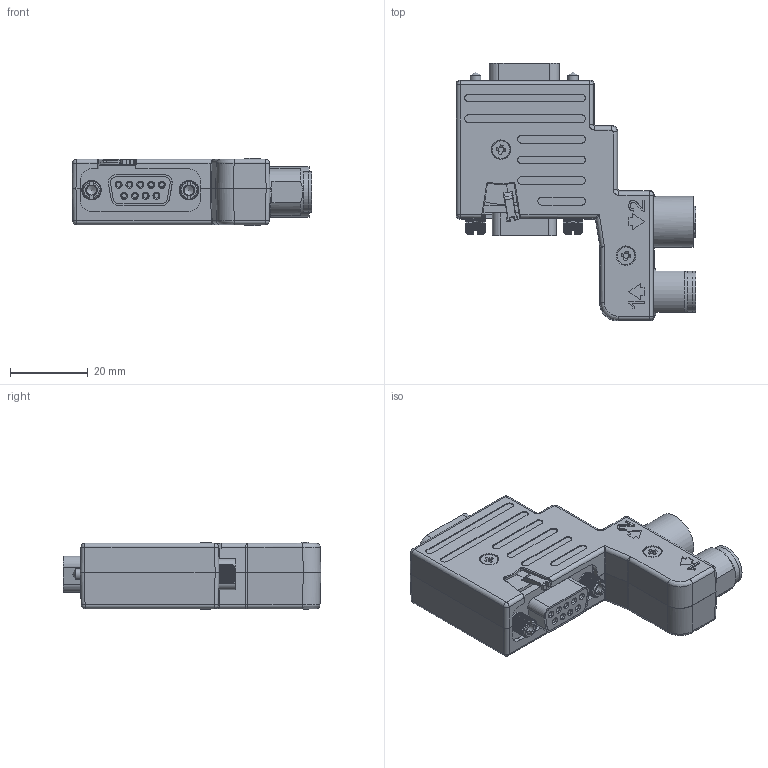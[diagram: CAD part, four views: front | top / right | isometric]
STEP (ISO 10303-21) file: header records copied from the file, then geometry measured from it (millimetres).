
FILE_DESCRIPTION(/* description */ (''),/* implementation_level */ '2;1');
FILE_NAME(/* name */ '40-1492122-000-BG_01_Kunden.stp',/* time_stamp */ '2013-12-03T09:29:43+01:00',/* author */ (''),/* organization */ (''),/* preprocessor_version */ 'ST-DEVELOPER v11',/* originating_system */ 'SIEMENS PLM Software NX 7.5',/* authorisation */ '');
FILE_SCHEMA (('AUTOMOTIVE_DESIGN { 1 0 10303 214 1 1 1 1 }'));
Products named in the file (1): Schu80C07x0z
Bounding box: 61.55 x 66.12 x 17.4 mm (x, y, z)
Volume: 30956.1 mm3; surface area: 16328.4 mm2
Topology: 1 solids, 4 shells, 2326 faces, 6423 edges, 4110 vertices
Faces by surface type: plane 1272, cylinder 586, bspline 196, cone 110, torus 67, extrusion 52, sphere 43
Full cylindrical faces by diameter (mm): 0.95 x1, 1 x9, 1.1 x5, 1.2 x9, 1.95 x5, 2.05 x1, 2.2 x10, 2.5 x2, 2.72 x2, 3.2 x2, 4.5 x2, 4.8 x2, 5 x3, 8.35 x1, 9.5 x1, 10.5 x2, 11 x2, 12 x1, 13 x1
Entity records: 85433 total; most frequent: CARTESIAN_POINT 21120, ORIENTED_EDGE 12390, DIRECTION 11151, EDGE_CURVE 6195, VERTEX_POINT 4037, AXIS2_PLACEMENT_3D 3862, VECTOR 3427, LINE 3375
